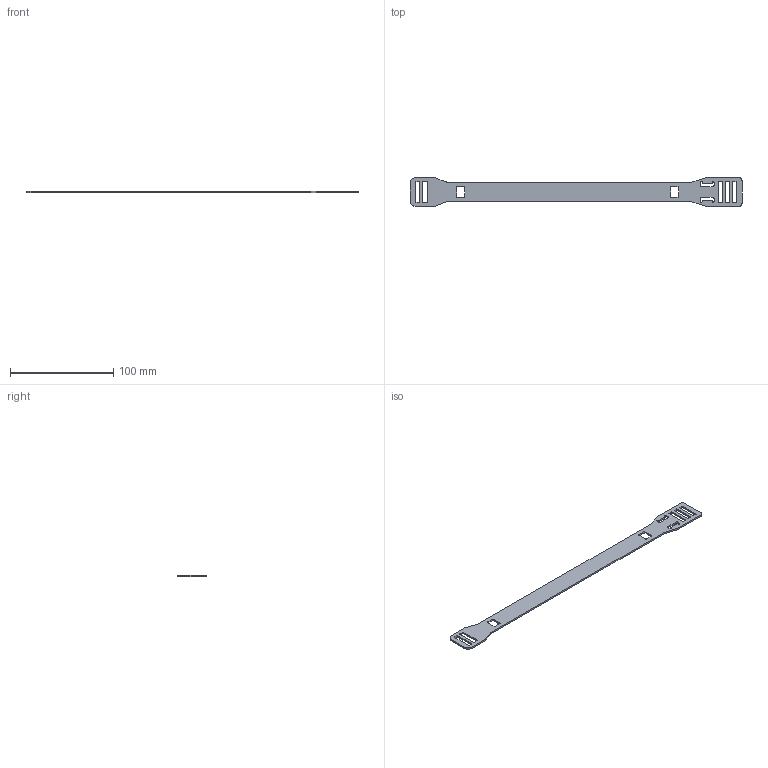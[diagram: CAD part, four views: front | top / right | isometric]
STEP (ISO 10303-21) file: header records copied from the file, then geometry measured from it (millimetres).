
FILE_DESCRIPTION(/* description */ (''),/* implementation_level */ '2;1');
FILE_NAME(/* name */ 'F:/Phasespacce 2019/VR Rift/Face Shield Poly/Production/Face Shield with PolyCarbonate frame/Good inside bend 20 mm Elastic v6.step',/* time_stamp */ '2020-03-31T20:23:56-07:00',/* author */ (''),/* organization */ (''),/* preprocessor_version */ 'ST-DEVELOPER v18',/* originating_system */ 'Autodesk Translation Framework v8.12.0.6',/* authorisation */ '');
FILE_SCHEMA (('AUTOMOTIVE_DESIGN { 1 0 10303 214 3 1 1 }'));
Length unit declared in the file: millimetre
Products named in the file (1): Good inside bend 20 mm Elastic
Bounding box: 321 x 28.03 x 1.58 mm (x, y, z)
Volume: 9561.6 mm3; surface area: 13797.3 mm2
Topology: 1 solids, 1 shells, 98 faces, 288 edges, 192 vertices
Faces by surface type: plane 54, cylinder 44
Entity records: 3349 total; most frequent: CARTESIAN_POINT 579, ORIENTED_EDGE 576, DIRECTION 574, EDGE_CURVE 288, LINE 200, VECTOR 200, VERTEX_POINT 192, AXIS2_PLACEMENT_3D 187
